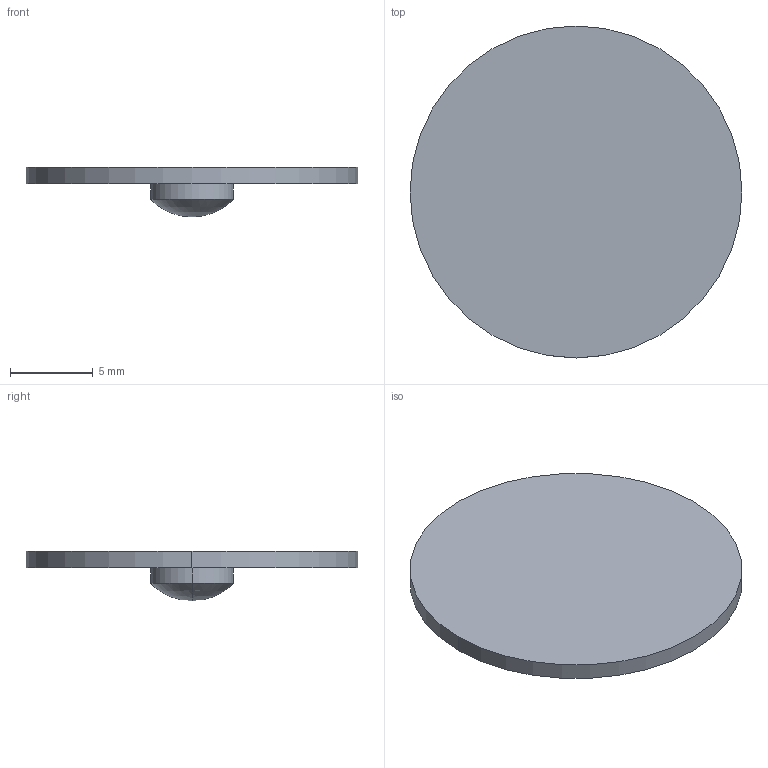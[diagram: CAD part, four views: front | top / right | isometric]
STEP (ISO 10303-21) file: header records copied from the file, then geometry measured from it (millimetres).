
FILE_DESCRIPTION(('STEP AP214'),'1');
FILE_NAME('LL-3-5.STEP','2020-03-09T17:41:13',(' '),(' '),'Spatial InterOp 3D',' ',' ');
FILE_SCHEMA(('AUTOMOTIVE_DESIGN { 1 0 10303 214 1 1 1 1 }'));
Length unit declared in the file: millimetre
Products named in the file (1): 1
Bounding box: 20 x 20 x 3 mm (x, y, z)
Volume: 343.7 mm3; surface area: 748.8 mm2
Topology: 2 solids, 2 shells, 9 faces, 16 edges, 9 vertices
Faces by surface type: cylinder 4, plane 3, sphere 2
Entity records: 229 total; most frequent: DIRECTION 46, CARTESIAN_POINT 34, ORIENTED_EDGE 28, AXIS2_PLACEMENT_3D 21, EDGE_CURVE 14, CIRCLE 10, ADVANCED_FACE 9, FACE_OUTER_BOUND 9
